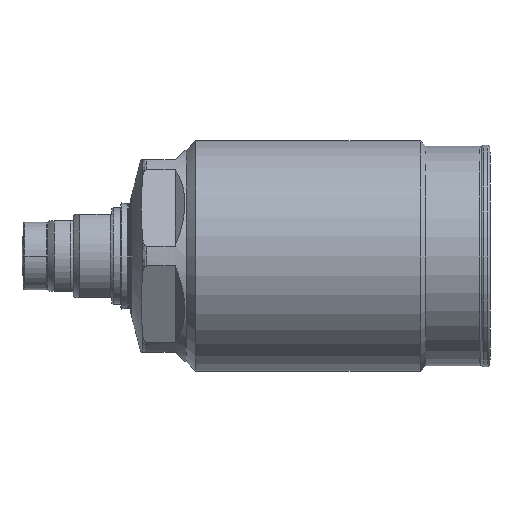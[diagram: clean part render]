
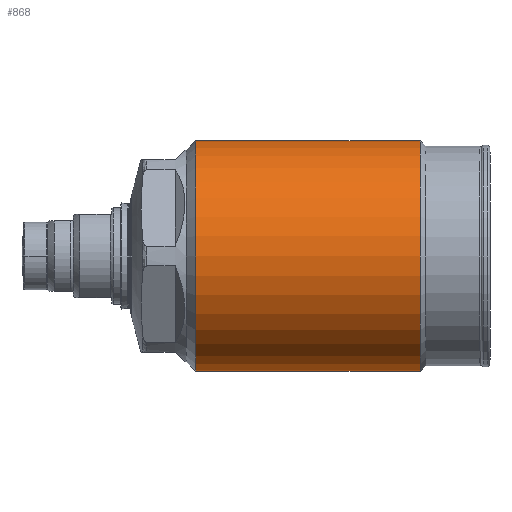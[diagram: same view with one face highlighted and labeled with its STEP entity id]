
A CAD part, left-side view. The second image highlights one B-rep face of the part: STEP entity #868.
In plain terms, the highlighted cylindrical face has radius 18 mm (diameter 36 mm), a partial arc.
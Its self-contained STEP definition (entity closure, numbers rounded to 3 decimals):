
#868=ADVANCED_FACE('',(#1337),#1120,.T.);
#1120=CYLINDRICAL_SURFACE('',#6677,18.);
#1337=FACE_OUTER_BOUND('',#1741,.T.);
#1741=EDGE_LOOP('',(#3438,#3439,#3440,#3441));
#2228=LINE('',#10217,#2560);
#2229=LINE('',#10221,#2561);
#2560=VECTOR('',#8010,1.);
#2561=VECTOR('',#8013,1.);
#3438=ORIENTED_EDGE('',*,*,#5310,.T.);
#3439=ORIENTED_EDGE('',*,*,#5414,.T.);
#3440=ORIENTED_EDGE('',*,*,#5312,.F.);
#3441=ORIENTED_EDGE('',*,*,#5413,.F.);
#4692=VERTEX_POINT('',#10212);
#4693=VERTEX_POINT('',#10214);
#4694=VERTEX_POINT('',#10218);
#4695=VERTEX_POINT('',#10220);
#5310=EDGE_CURVE('',#4694,#4692,#2228,.T.);
#5312=EDGE_CURVE('',#4695,#4693,#2229,.T.);
#5413=EDGE_CURVE('',#4694,#4695,#5999,.T.);
#5414=EDGE_CURVE('',#4692,#4693,#6000,.T.);
#5999=CIRCLE('',#6674,18.);
#6000=CIRCLE('',#6676,18.);
#6674=AXIS2_PLACEMENT_3D('',#10593,#8272,#8273);
#6676=AXIS2_PLACEMENT_3D('',#10595,#8276,#8277);
#6677=AXIS2_PLACEMENT_3D('',#10596,#8278,#8279);
#8010=DIRECTION('',(0.,1.,0.));
#8013=DIRECTION('',(0.,1.,0.));
#8272=DIRECTION('',(0.,-1.,0.));
#8273=DIRECTION('',(0.,0.,-1.));
#8276=DIRECTION('',(0.,-1.,0.));
#8277=DIRECTION('',(0.,0.,-1.));
#8278=DIRECTION('',(0.,-1.,0.));
#8279=DIRECTION('',(0.,0.,1.));
#10212=CARTESIAN_POINT('',(0.,50.36,18.));
#10214=CARTESIAN_POINT('',(0.,50.36,-18.));
#10217=CARTESIAN_POINT('',(0.,0.,18.));
#10218=CARTESIAN_POINT('',(0.,15.36,18.));
#10220=CARTESIAN_POINT('',(0.,15.36,-18.));
#10221=CARTESIAN_POINT('',(0.,0.,-18.));
#10593=CARTESIAN_POINT('',(0.,15.36,0.));
#10595=CARTESIAN_POINT('',(0.,50.36,0.));
#10596=CARTESIAN_POINT('',(0.,0.,0.));
